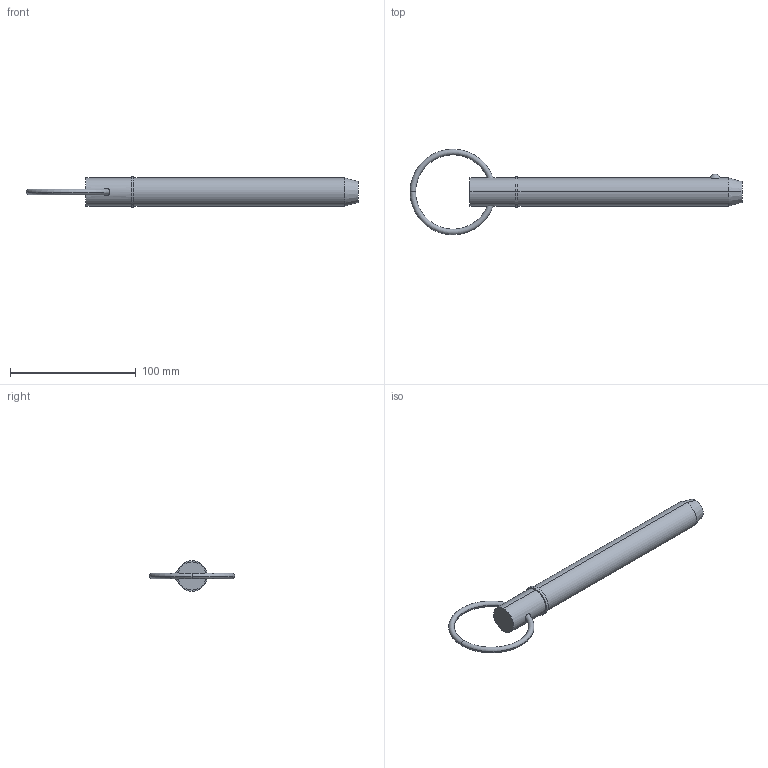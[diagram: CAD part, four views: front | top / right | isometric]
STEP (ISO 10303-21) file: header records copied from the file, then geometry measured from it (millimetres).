
FILE_DESCRIPTION (( 'STEP AP203' ), '1' );
FILE_NAME ('33016.W8860.step', '2024-11-07T11:17:17', ( '' ), ( '' ), 'SwSTEP 2.0', 'SolidWorks 2019', '' );
FILE_SCHEMA (( 'CONFIG_CONTROL_DESIGN' ));
Length unit declared in the file: millimetre
Products named in the file (3): Part1_33016.W8860; Part2_33016.W8860; 33016.W8860
Assembly tree (2 placements, depth 2):
  33016.W8860
    Part1_33016.W8860
    Part2_33016.W8860
Bounding box: 263.51 x 67.95 x 24.45 mm (x, y, z)
Volume: 85708.7 mm3; surface area: 18956.1 mm2
Topology: 2 solids, 2 shells, 22 faces, 43 edges, 26 vertices
Faces by surface type: torus 8, cylinder 6, plane 4, sphere 2, cone 2
Entity records: 1065 total; most frequent: CARTESIAN_POINT 288, DIRECTION 120, ORIENTED_EDGE 86, AXIS2_PLACEMENT_3D 56, EDGE_CURVE 43, CIRCLE 29, EDGE_LOOP 27, VERTEX_POINT 26
